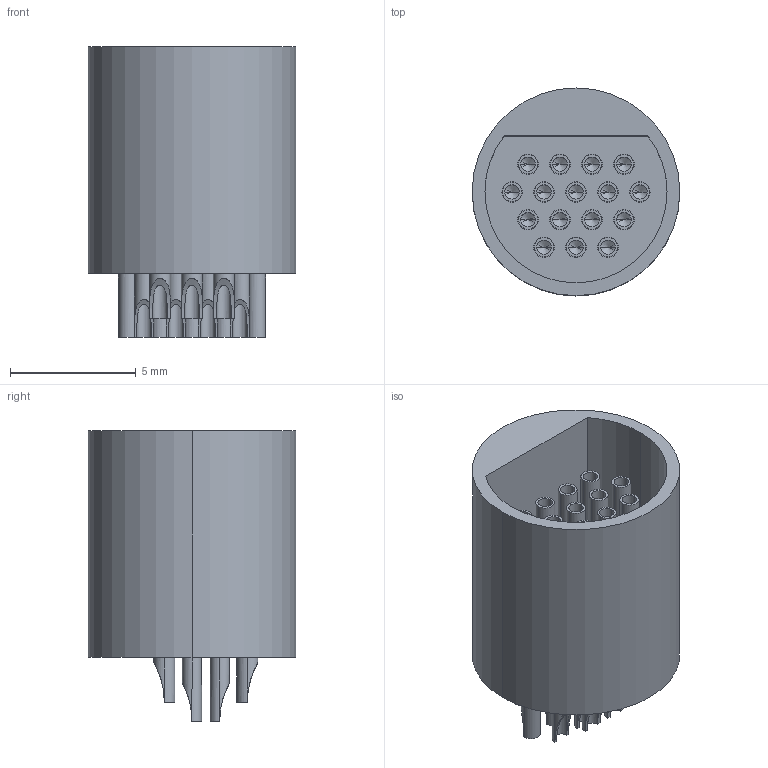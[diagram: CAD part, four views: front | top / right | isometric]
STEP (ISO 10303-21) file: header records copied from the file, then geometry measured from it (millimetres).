
FILE_DESCRIPTION (( 'STEP AP214' ), '1' );
FILE_NAME ('A22033-001 REV C.STEP', '2012-09-06T14:35:28', ( '' ), ( '' ), 'SwSTEP 2.0', 'SolidWorks 2012', '' );
FILE_SCHEMA (( 'AUTOMOTIVE_DESIGN' ));
Length unit declared in the file: inch
Products named in the file (1): A22033-001 REV C
Bounding box: 8.26 x 8.26 x 11.56 mm (x, y, z)
Volume: 317.4 mm3; surface area: 980.4 mm2
Topology: 1 solids, 17 shells, 522 faces, 1205 edges, 742 vertices
Faces by surface type: cylinder 297, plane 159, cone 58, bspline 8
Entity records: 16755 total; most frequent: CARTESIAN_POINT 4871, DIRECTION 2575, ORIENTED_EDGE 2310, EDGE_CURVE 1155, AXIS2_PLACEMENT_3D 1006, VERTEX_POINT 742, EDGE_LOOP 629, LINE 563
